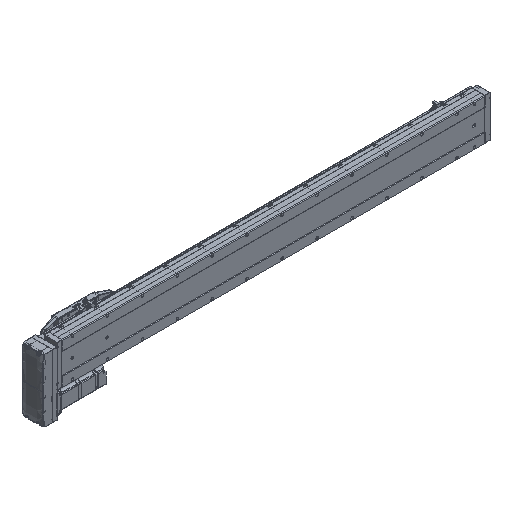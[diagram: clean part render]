
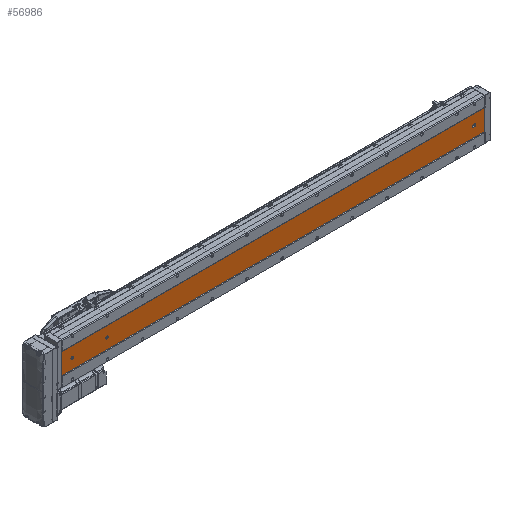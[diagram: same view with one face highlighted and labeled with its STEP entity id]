
A CAD part, isometric view. The second image highlights one B-rep face of the part: STEP entity #56986.
In plain terms, the highlighted planar face has unit normal (0, -1, 0).
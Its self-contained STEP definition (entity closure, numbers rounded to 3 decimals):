
#1044 = CARTESIAN_POINT ( 'NONE',  ( -39.892, -52.848, 1081. ) ) ;
#1075 = CARTESIAN_POINT ( 'NONE',  ( -39.892, -52.848, 26.5 ) ) ;
#2345 = FACE_BOUND ( 'NONE', #9070, .T. ) ;
#4081 = VERTEX_POINT ( 'NONE', #1075 ) ;
#6561 = VERTEX_POINT ( 'NONE', #34172 ) ;
#8371 = CARTESIAN_POINT ( 'NONE',  ( -69.892, -52.848, 1211. ) ) ;
#8849 = EDGE_CURVE ( 'NONE', #25821, #56504, #25886, .T. ) ;
#9070 = EDGE_LOOP ( 'NONE', ( #54019, #19281 ) ) ;
#9505 = ORIENTED_EDGE ( 'NONE', *, *, #74839, .T. ) ;
#9566 = CARTESIAN_POINT ( 'NONE',  ( -69.892, -52.848, 1211. ) ) ;
#9995 = DIRECTION ( 'NONE',  ( 0., 0., 1. ) ) ;
#10054 = EDGE_CURVE ( 'NONE', #4081, #15243, #40802, .T. ) ;
#10447 = CARTESIAN_POINT ( 'NONE',  ( -39.892, -52.848, 1081. ) ) ;
#12229 = LINE ( 'NONE', #47331, #80856 ) ;
#14479 = ORIENTED_EDGE ( 'NONE', *, *, #84769, .T. ) ;
#14605 = CARTESIAN_POINT ( 'NONE',  ( -9.892, -52.848, 1211. ) ) ;
#15185 = AXIS2_PLACEMENT_3D ( 'NONE', #84917, #78286, #85513 ) ;
#15243 = VERTEX_POINT ( 'NONE', #58485 ) ;
#18160 = CARTESIAN_POINT ( 'NONE',  ( -39.892, -52.848, 1184.5 ) ) ;
#19281 = ORIENTED_EDGE ( 'NONE', *, *, #45279, .T. ) ;
#19589 = CARTESIAN_POINT ( 'NONE',  ( -9.892, -52.848, 1211. ) ) ;
#22938 = VECTOR ( 'NONE', #75336, 1000. ) ;
#23123 = DIRECTION ( 'NONE',  ( 0., 0., 1. ) ) ;
#23498 = AXIS2_PLACEMENT_3D ( 'NONE', #10447, #58383, #24226 ) ;
#23556 = EDGE_CURVE ( 'NONE', #44971, #33399, #61469, .T. ) ;
#24226 = DIRECTION ( 'NONE',  ( 0., 0., 1. ) ) ;
#25616 = CARTESIAN_POINT ( 'NONE',  ( -69.892, -52.848, 1211. ) ) ;
#25720 = AXIS2_PLACEMENT_3D ( 'NONE', #26162, #47363, #67167 ) ;
#25821 = VERTEX_POINT ( 'NONE', #75493 ) ;
#25886 = CIRCLE ( 'NONE', #30348, 3.5 ) ;
#26162 = CARTESIAN_POINT ( 'NONE',  ( -39.892, -52.848, 1181. ) ) ;
#28253 = ORIENTED_EDGE ( 'NONE', *, *, #85180, .T. ) ;
#29740 = EDGE_CURVE ( 'NONE', #44971, #72276, #56592, .T. ) ;
#30277 = DIRECTION ( 'NONE',  ( 1., 0., 0. ) ) ;
#30348 = AXIS2_PLACEMENT_3D ( 'NONE', #1044, #76026, #82652 ) ;
#30493 = EDGE_CURVE ( 'NONE', #72276, #69006, #38934, .T. ) ;
#33399 = VERTEX_POINT ( 'NONE', #34115 ) ;
#34115 = CARTESIAN_POINT ( 'NONE',  ( -69.892, -52.848, 0. ) ) ;
#34172 = CARTESIAN_POINT ( 'NONE',  ( -36.392, -52.848, 30. ) ) ;
#35737 = VECTOR ( 'NONE', #78195, 1000. ) ;
#36022 = ORIENTED_EDGE ( 'NONE', *, *, #39243, .T. ) ;
#36462 = CARTESIAN_POINT ( 'NONE',  ( -9.892, -52.848, 0. ) ) ;
#36465 = DIRECTION ( 'NONE',  ( 0., 1., 0. ) ) ;
#36679 = DIRECTION ( 'NONE',  ( 0., 1., 0. ) ) ;
#36919 = CARTESIAN_POINT ( 'NONE',  ( -43.392, -52.848, 32. ) ) ;
#37665 = ORIENTED_EDGE ( 'NONE', *, *, #30493, .F. ) ;
#38177 = EDGE_CURVE ( 'NONE', #81471, #64463, #42141, .T. ) ;
#38934 = LINE ( 'NONE', #19589, #22938 ) ;
#39243 = EDGE_CURVE ( 'NONE', #15243, #62156, #61386, .T. ) ;
#39630 = CIRCLE ( 'NONE', #46136, 3.5 ) ;
#40090 = AXIS2_PLACEMENT_3D ( 'NONE', #84463, #36465, #70959 ) ;
#40591 = ORIENTED_EDGE ( 'NONE', *, *, #23556, .T. ) ;
#40802 = CIRCLE ( 'NONE', #47134, 3.5 ) ;
#42141 = CIRCLE ( 'NONE', #40090, 3.5 ) ;
#43105 = FACE_OUTER_BOUND ( 'NONE', #70108, .T. ) ;
#44581 = DIRECTION ( 'NONE',  ( 0., 1., 0. ) ) ;
#44971 = VERTEX_POINT ( 'NONE', #25616 ) ;
#45279 = EDGE_CURVE ( 'NONE', #56504, #25821, #87671, .T. ) ;
#46136 = AXIS2_PLACEMENT_3D ( 'NONE', #51029, #63937, #78311 ) ;
#47134 = AXIS2_PLACEMENT_3D ( 'NONE', #79954, #44581, #86308 ) ;
#47331 = CARTESIAN_POINT ( 'NONE',  ( -36.392, -52.848, 1211. ) ) ;
#47363 = DIRECTION ( 'NONE',  ( 0., 1., 0. ) ) ;
#47545 = EDGE_CURVE ( 'NONE', #69402, #6561, #12229, .T. ) ;
#48916 = VECTOR ( 'NONE', #73456, 1000. ) ;
#50026 = EDGE_CURVE ( 'NONE', #6561, #4081, #39630, .T. ) ;
#50152 = CARTESIAN_POINT ( 'NONE',  ( -69.892, -52.848, 1211. ) ) ;
#50764 = CARTESIAN_POINT ( 'NONE',  ( -39.892, -52.848, 1177.5 ) ) ;
#51029 = CARTESIAN_POINT ( 'NONE',  ( -39.892, -52.848, 30. ) ) ;
#51060 = PLANE ( 'NONE',  #85231 ) ;
#51104 = CIRCLE ( 'NONE', #25720, 3.5 ) ;
#51340 = ORIENTED_EDGE ( 'NONE', *, *, #38177, .T. ) ;
#52300 = VECTOR ( 'NONE', #30277, 1000. ) ;
#54019 = ORIENTED_EDGE ( 'NONE', *, *, #8849, .T. ) ;
#56504 = VERTEX_POINT ( 'NONE', #61696 ) ;
#56592 = LINE ( 'NONE', #8371, #52300 ) ;
#56986 = ADVANCED_FACE ( 'NONE', ( #71044, #2345, #61394, #43105 ), #51060, .F. ) ;
#58357 = EDGE_LOOP ( 'NONE', ( #74155, #62050, #87168, #36022, #9505 ) ) ;
#58383 = DIRECTION ( 'NONE',  ( 0., 1., 0. ) ) ;
#58485 = CARTESIAN_POINT ( 'NONE',  ( -43.392, -52.848, 30. ) ) ;
#61386 = LINE ( 'NONE', #70169, #88288 ) ;
#61394 = FACE_BOUND ( 'NONE', #80928, .T. ) ;
#61469 = LINE ( 'NONE', #9566, #35737 ) ;
#61696 = CARTESIAN_POINT ( 'NONE',  ( -39.892, -52.848, 1084.5 ) ) ;
#62050 = ORIENTED_EDGE ( 'NONE', *, *, #50026, .T. ) ;
#62156 = VERTEX_POINT ( 'NONE', #36919 ) ;
#63937 = DIRECTION ( 'NONE',  ( 0., 1., 0. ) ) ;
#64463 = VERTEX_POINT ( 'NONE', #18160 ) ;
#65977 = CIRCLE ( 'NONE', #15185, 3.5 ) ;
#67104 = CARTESIAN_POINT ( 'NONE',  ( -69.892, -52.848, 0. ) ) ;
#67167 = DIRECTION ( 'NONE',  ( 0., 0., 1. ) ) ;
#69006 = VERTEX_POINT ( 'NONE', #36462 ) ;
#69402 = VERTEX_POINT ( 'NONE', #77745 ) ;
#70108 = EDGE_LOOP ( 'NONE', ( #28253, #37665, #70773, #40591 ) ) ;
#70169 = CARTESIAN_POINT ( 'NONE',  ( -43.392, -52.848, 1211. ) ) ;
#70773 = ORIENTED_EDGE ( 'NONE', *, *, #29740, .F. ) ;
#70959 = DIRECTION ( 'NONE',  ( 0., 0., 1. ) ) ;
#71044 = FACE_BOUND ( 'NONE', #58357, .T. ) ;
#72276 = VERTEX_POINT ( 'NONE', #14605 ) ;
#73456 = DIRECTION ( 'NONE',  ( 1., 0., 0. ) ) ;
#74155 = ORIENTED_EDGE ( 'NONE', *, *, #47545, .T. ) ;
#74839 = EDGE_CURVE ( 'NONE', #62156, #69402, #65977, .T. ) ;
#75336 = DIRECTION ( 'NONE',  ( 0., 0., -1. ) ) ;
#75493 = CARTESIAN_POINT ( 'NONE',  ( -39.892, -52.848, 1077.5 ) ) ;
#76026 = DIRECTION ( 'NONE',  ( 0., 1., 0. ) ) ;
#77745 = CARTESIAN_POINT ( 'NONE',  ( -36.392, -52.848, 32. ) ) ;
#78195 = DIRECTION ( 'NONE',  ( 0., 0., -1. ) ) ;
#78286 = DIRECTION ( 'NONE',  ( 0., 1., 0. ) ) ;
#78311 = DIRECTION ( 'NONE',  ( 0., 0., 1. ) ) ;
#79954 = CARTESIAN_POINT ( 'NONE',  ( -39.892, -52.848, 30. ) ) ;
#80856 = VECTOR ( 'NONE', #82163, 1000. ) ;
#80928 = EDGE_LOOP ( 'NONE', ( #51340, #14479 ) ) ;
#81471 = VERTEX_POINT ( 'NONE', #50764 ) ;
#82163 = DIRECTION ( 'NONE',  ( 0., 0., -1. ) ) ;
#82652 = DIRECTION ( 'NONE',  ( 0., 0., 1. ) ) ;
#84463 = CARTESIAN_POINT ( 'NONE',  ( -39.892, -52.848, 1181. ) ) ;
#84769 = EDGE_CURVE ( 'NONE', #64463, #81471, #51104, .T. ) ;
#84917 = CARTESIAN_POINT ( 'NONE',  ( -39.892, -52.848, 32. ) ) ;
#85180 = EDGE_CURVE ( 'NONE', #33399, #69006, #85460, .T. ) ;
#85231 = AXIS2_PLACEMENT_3D ( 'NONE', #50152, #36679, #9995 ) ;
#85460 = LINE ( 'NONE', #67104, #48916 ) ;
#85513 = DIRECTION ( 'NONE',  ( 0., 0., 1. ) ) ;
#86308 = DIRECTION ( 'NONE',  ( 0., 0., 1. ) ) ;
#87168 = ORIENTED_EDGE ( 'NONE', *, *, #10054, .T. ) ;
#87671 = CIRCLE ( 'NONE', #23498, 3.5 ) ;
#88288 = VECTOR ( 'NONE', #23123, 1000. ) ;
